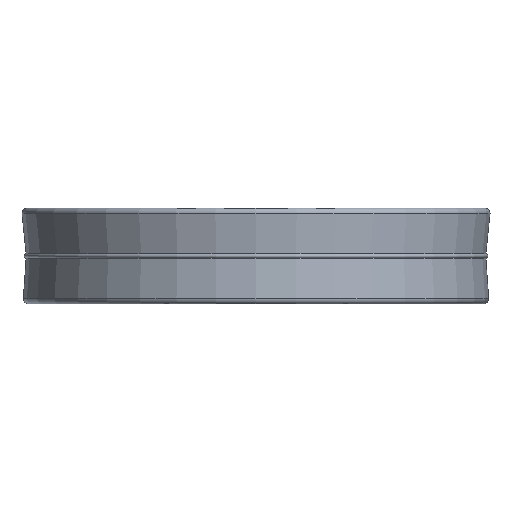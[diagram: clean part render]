
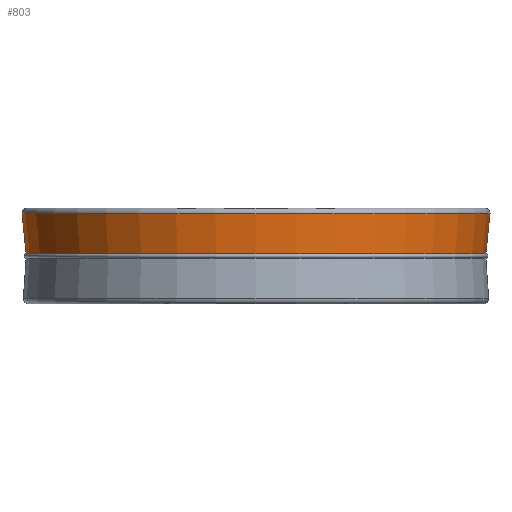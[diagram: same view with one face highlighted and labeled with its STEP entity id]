
A CAD part, front view. The second image highlights one B-rep face of the part: STEP entity #803.
In plain terms, the highlighted conical face has half-angle 5.866 degrees and reference radius 110 mm.
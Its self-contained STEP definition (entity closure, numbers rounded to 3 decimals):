
#1 = AXIS2_PLACEMENT_3D ( 'NONE', #489, #198, #497 ) ;
#25 = DIRECTION ( 'NONE',  ( 1., 0., 0. ) ) ;
#28 = CIRCLE ( 'NONE', #645, 111.967 ) ;
#31 = VERTEX_POINT ( 'NONE', #842 ) ;
#96 = DIRECTION ( 'NONE',  ( 0., 0., 1. ) ) ;
#136 = CARTESIAN_POINT ( 'NONE',  ( 110., 0., 73.536 ) ) ;
#142 = CONICAL_SURFACE ( 'NONE', #518, 110., 0.102 ) ;
#163 = ORIENTED_EDGE ( 'NONE', *, *, #1040, .T. ) ;
#175 = DIRECTION ( 'NONE',  ( 0., 0., -1. ) ) ;
#198 = DIRECTION ( 'NONE',  ( 0., 0., -1. ) ) ;
#251 = EDGE_CURVE ( 'NONE', #446, #855, #503, .T. ) ;
#291 = CARTESIAN_POINT ( 'NONE',  ( 110., 0., 73.536 ) ) ;
#317 = ORIENTED_EDGE ( 'NONE', *, *, #1046, .F. ) ;
#391 = CIRCLE ( 'NONE', #1, 110. ) ;
#446 = VERTEX_POINT ( 'NONE', #717 ) ;
#489 = CARTESIAN_POINT ( 'NONE',  ( 0., 0., 73.536 ) ) ;
#497 = DIRECTION ( 'NONE',  ( -1., 0., 0. ) ) ;
#503 = LINE ( 'NONE', #771, #1271 ) ;
#518 = AXIS2_PLACEMENT_3D ( 'NONE', #1025, #96, #25 ) ;
#578 = DIRECTION ( 'NONE',  ( -1., 0., 0. ) ) ;
#615 = ORIENTED_EDGE ( 'NONE', *, *, #251, .F. ) ;
#645 = AXIS2_PLACEMENT_3D ( 'NONE', #1083, #175, #578 ) ;
#717 = CARTESIAN_POINT ( 'NONE',  ( -110., 0., 73.536 ) ) ;
#755 = EDGE_CURVE ( 'NONE', #31, #855, #28, .T. ) ;
#771 = CARTESIAN_POINT ( 'NONE',  ( -110., 0., 73.536 ) ) ;
#803 = ADVANCED_FACE ( 'NONE', ( #1006 ), #142, .T. ) ;
#804 = CARTESIAN_POINT ( 'NONE',  ( -111.967, 0., 92.68 ) ) ;
#842 = CARTESIAN_POINT ( 'NONE',  ( 111.967, 0., 92.68 ) ) ;
#854 = EDGE_LOOP ( 'NONE', ( #615, #317, #163, #914 ) ) ;
#855 = VERTEX_POINT ( 'NONE', #804 ) ;
#914 = ORIENTED_EDGE ( 'NONE', *, *, #755, .T. ) ;
#1006 = FACE_OUTER_BOUND ( 'NONE', #854, .T. ) ;
#1023 = VECTOR ( 'NONE', #1106, 1000. ) ;
#1025 = CARTESIAN_POINT ( 'NONE',  ( 0., 0., 73.536 ) ) ;
#1040 = EDGE_CURVE ( 'NONE', #1178, #31, #1115, .T. ) ;
#1046 = EDGE_CURVE ( 'NONE', #1178, #446, #391, .T. ) ;
#1083 = CARTESIAN_POINT ( 'NONE',  ( 0., 0., 92.68 ) ) ;
#1106 = DIRECTION ( 'NONE',  ( 0.102, 0., 0.995 ) ) ;
#1115 = LINE ( 'NONE', #291, #1023 ) ;
#1178 = VERTEX_POINT ( 'NONE', #136 ) ;
#1204 = DIRECTION ( 'NONE',  ( -0.102, 0., 0.995 ) ) ;
#1271 = VECTOR ( 'NONE', #1204, 1000. ) ;
